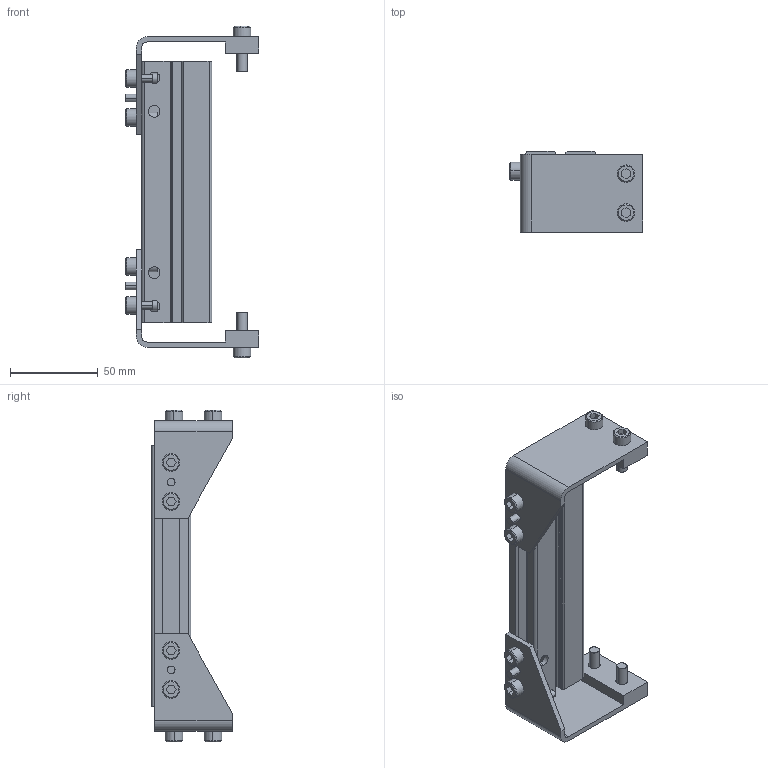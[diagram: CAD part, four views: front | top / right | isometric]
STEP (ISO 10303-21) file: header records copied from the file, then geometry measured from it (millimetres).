
FILE_DESCRIPTION((''),'2;1');
FILE_NAME('3076WWM_2_ASM','2023-03-15T',('jenni.wallner'),(''),'PRO/ENGINEER BY PARAMETRIC TECHNOLOGY CORPORATION, 2012420','PRO/ENGINEER BY PARAMETRIC TECHNOLOGY CORPORATION, 2012420','');
FILE_SCHEMA(('CONFIG_CONTROL_DESIGN'));
Length unit declared in the file: inch
Products named in the file (4): 677721_1; BRACKET_L; BRACKET_R; 3076WWM_2_ASM
Assembly tree (3 placements, depth 2):
  3076WWM_2_ASM
    677721_1
    BRACKET_L
    BRACKET_R
Bounding box: 76.2 x 46.13 x 189.22 mm (x, y, z)
Volume: 105529.1 mm3; surface area: 65199.2 mm2
Topology: 3 solids, 3 shells, 296 faces, 730 edges, 476 vertices
Faces by surface type: plane 188, cylinder 76, cone 32
Entity records: 8834 total; most frequent: DIRECTION 1520, CARTESIAN_POINT 1509, ORIENTED_EDGE 1460, EDGE_CURVE 730, VECTOR 546, LINE 546, AXIS2_PLACEMENT_3D 487, VERTEX_POINT 476
